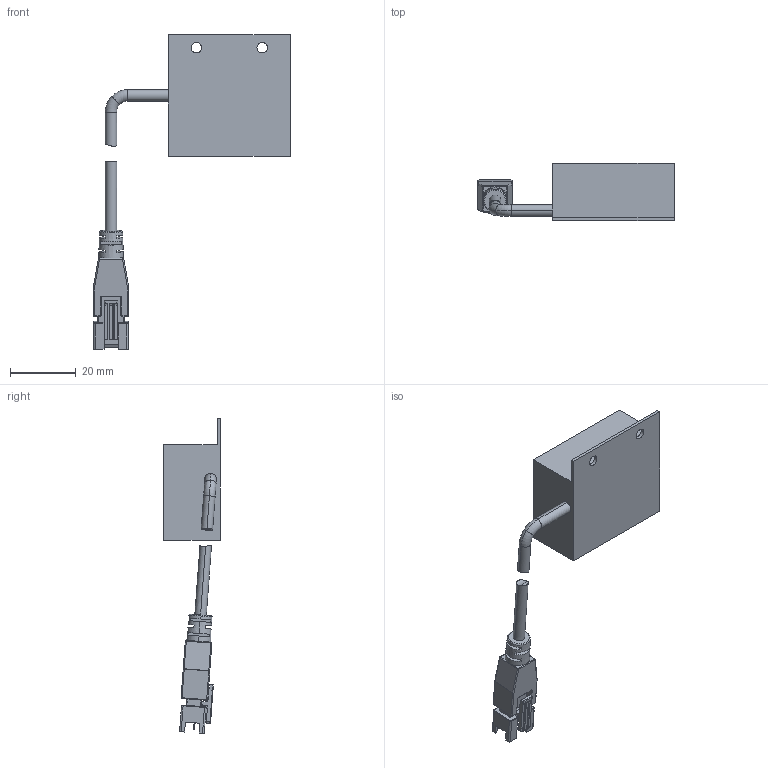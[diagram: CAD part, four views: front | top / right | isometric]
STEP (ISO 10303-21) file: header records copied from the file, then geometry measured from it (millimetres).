
FILE_DESCRIPTION((''),'2;1');
FILE_NAME('P-HFL-27-27_ASM','2014-06-11T',('Administrator'),(''),'PRO/ENGINEER BY PARAMETRIC TECHNOLOGY CORPORATION, 2011220','PRO/ENGINEER BY PARAMETRIC TECHNOLOGY CORPORATION, 2011220','');
FILE_SCHEMA(('CONFIG_CONTROL_DESIGN'));
Length unit declared in the file: millimetre
Products named in the file (5): WAIKE; LINE_TOU; BODY_12; ASSY_ASM; P-HFL-27-27_ASM
Assembly tree (4 placements, depth 3):
  P-HFL-27-27_ASM
    WAIKE
    ASSY_ASM
      LINE_TOU
      BODY_12
Bounding box: 59.69 x 17.3 x 95.67 mm (x, y, z)
Volume: 20916.2 mm3; surface area: 7590.9 mm2
Topology: 3 solids, 3 shells, 242 faces, 606 edges, 381 vertices
Faces by surface type: plane 141, cylinder 71, torus 12, bspline 8, sphere 8, cone 2
Entity records: 7504 total; most frequent: CARTESIAN_POINT 1547, DIRECTION 1234, ORIENTED_EDGE 1212, EDGE_CURVE 606, AXIS2_PLACEMENT_3D 417, VECTOR 400, LINE 400, VERTEX_POINT 381
